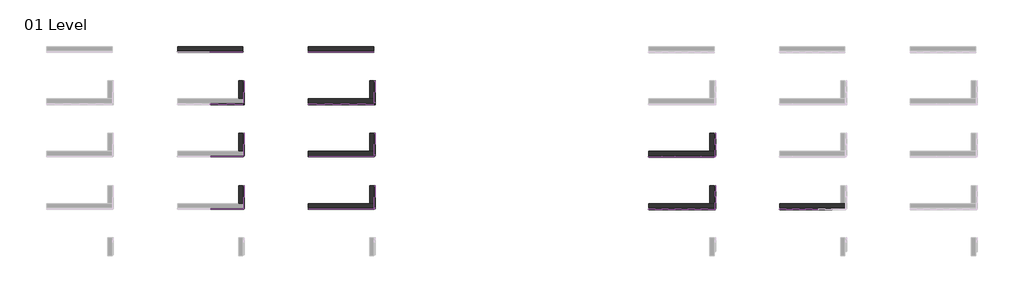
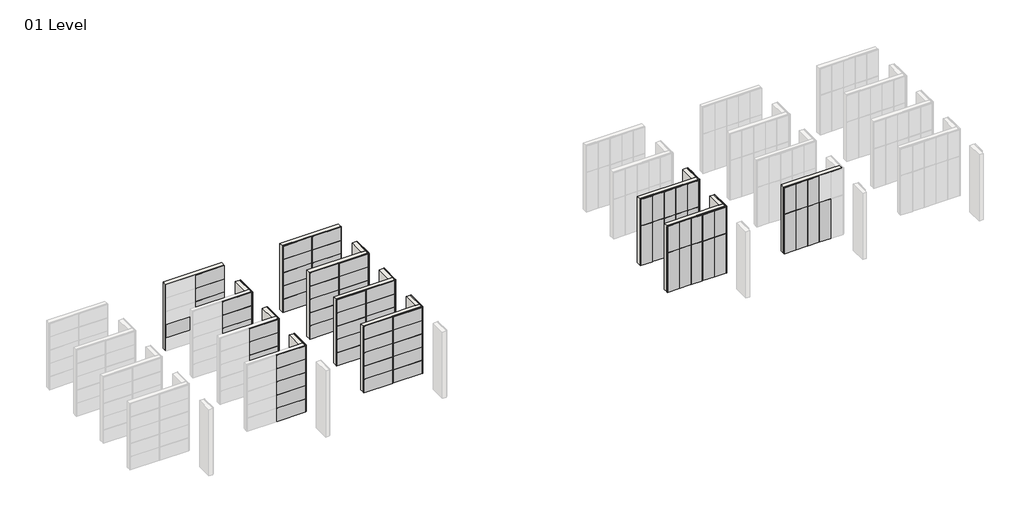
# One storey, part 8 of 9: 126 plates, 16 walls.
"""IFC4 building model written with IfcOpenShell, lengths in millimetres."""

from ifc_helpers import new_model, si_unit, origin, origin_with_axes, place, context, project, spatial, polyline, outline, extrude, faceted_brep, transform, mapped, element, save
from components import plate_0904af44, plate_e7c976e0, plate_a37fb7f1, plate_42f9c4d8, plate_c9eeb902, plate_ad4ab454, plate_c2ecfe3f, plate_62c4d9ae, plate_3ee6bba1, plate_4ea77f01, plate_acce0838, plate_e7e33969, plate_aa8d7293, plate_5b3d9199, plate_214ba543, plate_652c8ec9, plate_bde4079e, plate_9d35d37b, plate_bb0860f9, plate_58070d4d, plate_9cd253ac, plate_fa0548bc, plate_48d4b337, plate_5f2f2af7, plate_34d96444, plate_4d20720e, plate_6a977542, plate_9e6a310b

model = new_model("IFC4")

# Units and contexts
model_context = context("Model", 3, world=origin())
ifc_project = project(units=[si_unit("LENGTHUNIT", "METRE", prefix="MILLI")], contexts=[model_context])

# Site, building, storey
site = spatial("IfcSite", under=ifc_project)
building = spatial("IfcBuilding", under=site)
storey = spatial("IfcBuildingStorey", under=building, Name="01 Level", Elevation=0.0)

# Plates
placement = place(None, origin())
plate_shape = plate_0904af44(model_context)
element("IfcPlate", 1, ObjectType="Trimo_Qbiss Screen_Normal Panel-HORIZONTAL : HR - FB", at=placement, inside=storey, context=model_context, shape_type="MappedRepresentation", body=[
    mapped(plate_shape, transform((-14952.2237135, 12916.7286683, 0.0), x_axis=(-1.0, 0.0, 0.0), y_axis=(0.0, -1.0, 0.0), z_axis=(0.0, 0.0, 1.0))),
])
element("IfcPlate", 2, ObjectType="Trimo_Qbiss Screen_Normal Panel-HORIZONTAL : HR - FB", at=placement, inside=storey, context=model_context, shape_type="MappedRepresentation", body=[
    mapped(plate_shape, transform((-14952.2237135, 12916.7286683, 4800.0), x_axis=(-1.0, 0.0, 0.0), y_axis=(0.0, -1.0, 0.0), z_axis=(0.0, 0.0, 1.0))),
])
element("IfcPlate", 3, ObjectType="Trimo_Qbiss Screen_Normal Panel-HORIZONTAL : HR - FB", at=placement, inside=storey, context=model_context, shape_type="MappedRepresentation", body=[
    mapped(plate_shape, transform((-14952.2237135, 12916.7286683, 2400.0), x_axis=(-1.0, 0.0, 0.0), y_axis=(0.0, -1.0, 0.0), z_axis=(0.0, 0.0, 1.0))),
])
element("IfcPlate", 4, ObjectType="Trimo_Qbiss Screen_Normal Panel-HORIZONTAL : HR - FB", at=placement, inside=storey, context=model_context, shape_type="MappedRepresentation", body=[
    mapped(plate_shape, transform((-14952.2237135, 12916.7286683, 3600.0), x_axis=(-1.0, 0.0, 0.0), y_axis=(0.0, -1.0, 0.0), z_axis=(0.0, 0.0, 1.0))),
])
element("IfcPlate", 5, ObjectType="Trimo_Qbiss Screen_Normal Panel-HORIZONTAL : HR - FB", at=placement, inside=storey, context=model_context, shape_type="MappedRepresentation", body=[
    mapped(plate_shape, transform((-14952.2237135, 12916.7286683, 1200.0), x_axis=(-1.0, 0.0, 0.0), y_axis=(0.0, -1.0, 0.0), z_axis=(0.0, 0.0, 1.0))),
])
element("IfcPlate", 6, ObjectType="Trimo_Qbiss Screen_Normal Panel-HORIZONTAL : HR - FB", at=placement, inside=storey, context=model_context, shape_type="MappedRepresentation", body=[
    mapped(plate_shape, transform((-17452.2237135, 12916.7286683, 1200.0), x_axis=(-1.0, 0.0, 0.0), y_axis=(0.0, -1.0, 0.0), z_axis=(0.0, 0.0, 1.0))),
])
plate_2_shape = plate_e7c976e0(model_context)
element("IfcPlate", 7, ObjectType="Trimo_Qbiss Screen_Normal Panel-HORIZONTAL : HR - FB", at=placement, inside=storey, context=model_context, shape_type="MappedRepresentation", body=[
    mapped(plate_2_shape, transform((-14952.2237135, 8916.7286683, 0.0), x_axis=(-1.0, 0.0, 0.0), y_axis=(0.0, -1.0, 0.0), z_axis=(0.0, 0.0, 1.0))),
])
element("IfcPlate", 8, ObjectType="Trimo_Qbiss Screen_Normal Panel-HORIZONTAL : HR - FB", at=placement, inside=storey, context=model_context, shape_type="MappedRepresentation", body=[
    mapped(plate_2_shape, transform((-14952.2237135, 8916.7286683, 4800.0), x_axis=(-1.0, 0.0, 0.0), y_axis=(0.0, -1.0, 0.0), z_axis=(0.0, 0.0, 1.0))),
])
element("IfcPlate", 9, ObjectType="Trimo_Qbiss Screen_Normal Panel-HORIZONTAL : HR - FB", at=placement, inside=storey, context=model_context, shape_type="MappedRepresentation", body=[
    mapped(plate_2_shape, transform((-14952.2237135, 8916.7286683, 2400.0), x_axis=(-1.0, 0.0, 0.0), y_axis=(0.0, -1.0, 0.0), z_axis=(0.0, 0.0, 1.0))),
])
element("IfcPlate", 10, ObjectType="Trimo_Qbiss Screen_Normal Panel-HORIZONTAL : HR - FB", at=placement, inside=storey, context=model_context, shape_type="MappedRepresentation", body=[
    mapped(plate_2_shape, transform((-14952.2237135, 8916.7286683, 3600.0), x_axis=(-1.0, 0.0, 0.0), y_axis=(0.0, -1.0, 0.0), z_axis=(0.0, 0.0, 1.0))),
])
element("IfcPlate", 11, ObjectType="Trimo_Qbiss Screen_Normal Panel-HORIZONTAL : HR - FB", at=placement, inside=storey, context=model_context, shape_type="MappedRepresentation", body=[
    mapped(plate_2_shape, transform((-14952.2237135, 8916.7286683, 1200.0), x_axis=(-1.0, 0.0, 0.0), y_axis=(0.0, -1.0, 0.0), z_axis=(0.0, 0.0, 1.0))),
])
plate_3_shape = plate_a37fb7f1(model_context)
element("IfcPlate", 12, ObjectType="Trimo_Qbiss Screen_Normal Panel-HORIZONTAL : HR - FB", at=placement, inside=storey, context=model_context, shape_type="MappedRepresentation", body=[
    mapped(plate_3_shape, transform((-14952.2237135, 4916.7286683, 0.0), x_axis=(-1.0, 0.0, 0.0), y_axis=(0.0, -1.0, 0.0), z_axis=(0.0, 0.0, 1.0))),
])
element("IfcPlate", 13, ObjectType="Trimo_Qbiss Screen_Normal Panel-HORIZONTAL : HR - FB", at=placement, inside=storey, context=model_context, shape_type="MappedRepresentation", body=[
    mapped(plate_3_shape, transform((-14952.2237135, 4916.7286683, 4800.0), x_axis=(-1.0, 0.0, 0.0), y_axis=(0.0, -1.0, 0.0), z_axis=(0.0, 0.0, 1.0))),
])
element("IfcPlate", 14, ObjectType="Trimo_Qbiss Screen_Normal Panel-HORIZONTAL : HR - FB", at=placement, inside=storey, context=model_context, shape_type="MappedRepresentation", body=[
    mapped(plate_3_shape, transform((-14952.2237135, 4916.7286683, 2400.0), x_axis=(-1.0, 0.0, 0.0), y_axis=(0.0, -1.0, 0.0), z_axis=(0.0, 0.0, 1.0))),
])
element("IfcPlate", 15, ObjectType="Trimo_Qbiss Screen_Normal Panel-HORIZONTAL : HR - FB", at=placement, inside=storey, context=model_context, shape_type="MappedRepresentation", body=[
    mapped(plate_3_shape, transform((-14952.2237135, 4916.7286683, 3600.0), x_axis=(-1.0, 0.0, 0.0), y_axis=(0.0, -1.0, 0.0), z_axis=(0.0, 0.0, 1.0))),
])
element("IfcPlate", 16, ObjectType="Trimo_Qbiss Screen_Normal Panel-HORIZONTAL : HR - FB", at=placement, inside=storey, context=model_context, shape_type="MappedRepresentation", body=[
    mapped(plate_3_shape, transform((-14952.2237135, 4916.7286683, 1200.0), x_axis=(-1.0, 0.0, 0.0), y_axis=(0.0, -1.0, 0.0), z_axis=(0.0, 0.0, 1.0))),
])
plate_4_shape = plate_42f9c4d8(model_context)
element("IfcPlate", 17, ObjectType="Trimo_Qbiss Screen_Normal Panel-HORIZONTAL : HR - FB", at=placement, inside=storey, context=model_context, shape_type="MappedRepresentation", body=[
    mapped(plate_4_shape, transform((-14952.2237135, 916.7286683, 0.0), x_axis=(-1.0, 0.0, 0.0), y_axis=(0.0, -1.0, 0.0), z_axis=(0.0, 0.0, 1.0))),
])
element("IfcPlate", 18, ObjectType="Trimo_Qbiss Screen_Normal Panel-HORIZONTAL : HR - FB", at=placement, inside=storey, context=model_context, shape_type="MappedRepresentation", body=[
    mapped(plate_4_shape, transform((-14952.2237135, 916.7286683, 4800.0), x_axis=(-1.0, 0.0, 0.0), y_axis=(0.0, -1.0, 0.0), z_axis=(0.0, 0.0, 1.0))),
])
element("IfcPlate", 19, ObjectType="Trimo_Qbiss Screen_Normal Panel-HORIZONTAL : HR - FB", at=placement, inside=storey, context=model_context, shape_type="MappedRepresentation", body=[
    mapped(plate_4_shape, transform((-14952.2237135, 916.7286683, 2400.0), x_axis=(-1.0, 0.0, 0.0), y_axis=(0.0, -1.0, 0.0), z_axis=(0.0, 0.0, 1.0))),
])
element("IfcPlate", 20, ObjectType="Trimo_Qbiss Screen_Normal Panel-HORIZONTAL : HR - FB", at=placement, inside=storey, context=model_context, shape_type="MappedRepresentation", body=[
    mapped(plate_4_shape, transform((-14952.2237135, 916.7286683, 3600.0), x_axis=(-1.0, 0.0, 0.0), y_axis=(0.0, -1.0, 0.0), z_axis=(0.0, 0.0, 1.0))),
])
element("IfcPlate", 21, ObjectType="Trimo_Qbiss Screen_Normal Panel-HORIZONTAL : HR - FB", at=placement, inside=storey, context=model_context, shape_type="MappedRepresentation", body=[
    mapped(plate_4_shape, transform((-14952.2237135, 916.7286683, 1200.0), x_axis=(-1.0, 0.0, 0.0), y_axis=(0.0, -1.0, 0.0), z_axis=(0.0, 0.0, 1.0))),
])
plate_5_shape = plate_c9eeb902(model_context)
element("IfcPlate", 22, ObjectType="Trimo_Qbiss Screen_Normal Panel-HORIZONTAL : HR - FB", at=placement, inside=storey, context=model_context, shape_type="MappedRepresentation", body=[
    mapped(plate_5_shape, transform((-13702.2237135, 9766.7286683, 0.0), x_axis=(0.0, -1.0, 0.0), y_axis=(1.0, 0.0, 0.0), z_axis=(0.0, 0.0, 1.0))),
])
element("IfcPlate", 23, ObjectType="Trimo_Qbiss Screen_Normal Panel-HORIZONTAL : HR - FB", at=placement, inside=storey, context=model_context, shape_type="MappedRepresentation", body=[
    mapped(plate_5_shape, transform((-13702.2237135, 9766.7286683, 4800.0), x_axis=(0.0, -1.0, 0.0), y_axis=(1.0, 0.0, 0.0), z_axis=(0.0, 0.0, 1.0))),
])
element("IfcPlate", 24, ObjectType="Trimo_Qbiss Screen_Normal Panel-HORIZONTAL : HR - FB", at=placement, inside=storey, context=model_context, shape_type="MappedRepresentation", body=[
    mapped(plate_5_shape, transform((-13702.2237135, 9766.7286683, 3600.0), x_axis=(0.0, -1.0, 0.0), y_axis=(1.0, 0.0, 0.0), z_axis=(0.0, 0.0, 1.0))),
])
element("IfcPlate", 25, ObjectType="Trimo_Qbiss Screen_Normal Panel-HORIZONTAL : HR - FB", at=placement, inside=storey, context=model_context, shape_type="MappedRepresentation", body=[
    mapped(plate_5_shape, transform((-13702.2237135, 9766.7286683, 2400.0), x_axis=(0.0, -1.0, 0.0), y_axis=(1.0, 0.0, 0.0), z_axis=(0.0, 0.0, 1.0))),
])
element("IfcPlate", 26, ObjectType="Trimo_Qbiss Screen_Normal Panel-HORIZONTAL : HR - FB", at=placement, inside=storey, context=model_context, shape_type="MappedRepresentation", body=[
    mapped(plate_5_shape, transform((-13702.2237135, 9766.7286683, 1200.0), x_axis=(0.0, -1.0, 0.0), y_axis=(1.0, 0.0, 0.0), z_axis=(0.0, 0.0, 1.0))),
])
plate_6_shape = plate_ad4ab454(model_context)
element("IfcPlate", 27, ObjectType="Trimo_Qbiss Screen_Normal Panel-HORIZONTAL : HR - FB", at=placement, inside=storey, context=model_context, shape_type="MappedRepresentation", body=[
    mapped(plate_6_shape, transform((-13702.2237135, 5766.7286683, 0.0), x_axis=(0.0, -1.0, 0.0), y_axis=(1.0, 0.0, 0.0), z_axis=(0.0, 0.0, 1.0))),
])
element("IfcPlate", 28, ObjectType="Trimo_Qbiss Screen_Normal Panel-HORIZONTAL : HR - FB", at=placement, inside=storey, context=model_context, shape_type="MappedRepresentation", body=[
    mapped(plate_6_shape, transform((-13702.2237135, 5766.7286683, 4800.0), x_axis=(0.0, -1.0, 0.0), y_axis=(1.0, 0.0, 0.0), z_axis=(0.0, 0.0, 1.0))),
])
element("IfcPlate", 29, ObjectType="Trimo_Qbiss Screen_Normal Panel-HORIZONTAL : HR - FB", at=placement, inside=storey, context=model_context, shape_type="MappedRepresentation", body=[
    mapped(plate_6_shape, transform((-13702.2237135, 5766.7286683, 2400.0), x_axis=(0.0, -1.0, 0.0), y_axis=(1.0, 0.0, 0.0), z_axis=(0.0, 0.0, 1.0))),
])
element("IfcPlate", 30, ObjectType="Trimo_Qbiss Screen_Normal Panel-HORIZONTAL : HR - FB", at=placement, inside=storey, context=model_context, shape_type="MappedRepresentation", body=[
    mapped(plate_6_shape, transform((-13702.2237135, 5766.7286683, 3600.0), x_axis=(0.0, -1.0, 0.0), y_axis=(1.0, 0.0, 0.0), z_axis=(0.0, 0.0, 1.0))),
])
element("IfcPlate", 31, ObjectType="Trimo_Qbiss Screen_Normal Panel-HORIZONTAL : HR - FB", at=placement, inside=storey, context=model_context, shape_type="MappedRepresentation", body=[
    mapped(plate_6_shape, transform((-13702.2237135, 5766.7286683, 1200.0), x_axis=(0.0, -1.0, 0.0), y_axis=(1.0, 0.0, 0.0), z_axis=(0.0, 0.0, 1.0))),
])
plate_7_shape = plate_c2ecfe3f(model_context)
element("IfcPlate", 32, ObjectType="Trimo_Qbiss Screen_Normal Panel-HORIZONTAL : HR - FB", at=placement, inside=storey, context=model_context, shape_type="MappedRepresentation", body=[
    mapped(plate_7_shape, transform((-13702.2237135, 1766.7286683, 0.0), x_axis=(0.0, -1.0, 0.0), y_axis=(1.0, 0.0, 0.0), z_axis=(0.0, 0.0, 1.0))),
])
element("IfcPlate", 33, ObjectType="Trimo_Qbiss Screen_Normal Panel-HORIZONTAL : HR - FB", at=placement, inside=storey, context=model_context, shape_type="MappedRepresentation", body=[
    mapped(plate_7_shape, transform((-13702.2237135, 1766.7286683, 4800.0), x_axis=(0.0, -1.0, 0.0), y_axis=(1.0, 0.0, 0.0), z_axis=(0.0, 0.0, 1.0))),
])
element("IfcPlate", 34, ObjectType="Trimo_Qbiss Screen_Normal Panel-HORIZONTAL : HR - FB", at=placement, inside=storey, context=model_context, shape_type="MappedRepresentation", body=[
    mapped(plate_7_shape, transform((-13702.2237135, 1766.7286683, 2400.0), x_axis=(0.0, -1.0, 0.0), y_axis=(1.0, 0.0, 0.0), z_axis=(0.0, 0.0, 1.0))),
])
element("IfcPlate", 35, ObjectType="Trimo_Qbiss Screen_Normal Panel-HORIZONTAL : HR - FB", at=placement, inside=storey, context=model_context, shape_type="MappedRepresentation", body=[
    mapped(plate_7_shape, transform((-13702.2237135, 1766.7286683, 3600.0), x_axis=(0.0, -1.0, 0.0), y_axis=(1.0, 0.0, 0.0), z_axis=(0.0, 0.0, 1.0))),
])
element("IfcPlate", 36, ObjectType="Trimo_Qbiss Screen_Normal Panel-HORIZONTAL : HR - FB", at=placement, inside=storey, context=model_context, shape_type="MappedRepresentation", body=[
    mapped(plate_7_shape, transform((-13702.2237135, 1766.7286683, 1200.0), x_axis=(0.0, -1.0, 0.0), y_axis=(1.0, 0.0, 0.0), z_axis=(0.0, 0.0, 1.0))),
])
plate_8_shape = plate_62c4d9ae(model_context)
element("IfcPlate", 37, ObjectType="Trimo_Qbiss Screen_Normal Panel-HORIZONTAL : HR - FB-F", at=placement, inside=storey, context=model_context, shape_type="MappedRepresentation", body=[
    mapped(plate_8_shape, transform((-4952.2237135, 12916.7286683, 0.0), x_axis=(-1.0, 0.0, 0.0), y_axis=(0.0, -1.0, 0.0), z_axis=(0.0, 0.0, 1.0))),
])
element("IfcPlate", 38, ObjectType="Trimo_Qbiss Screen_Normal Panel-HORIZONTAL : HR - FB-F", at=placement, inside=storey, context=model_context, shape_type="MappedRepresentation", body=[
    mapped(plate_8_shape, transform((-7452.2237135, 12916.7286683, 0.0), x_axis=(-1.0, 0.0, 0.0), y_axis=(0.0, -1.0, 0.0), z_axis=(0.0, 0.0, 1.0))),
])
element("IfcPlate", 39, ObjectType="Trimo_Qbiss Screen_Normal Panel-HORIZONTAL : HR - FB-F", at=placement, inside=storey, context=model_context, shape_type="MappedRepresentation", body=[
    mapped(plate_8_shape, transform((-4952.2237135, 12916.7286683, 4800.0), x_axis=(-1.0, 0.0, 0.0), y_axis=(0.0, -1.0, 0.0), z_axis=(0.0, 0.0, 1.0))),
])
element("IfcPlate", 40, ObjectType="Trimo_Qbiss Screen_Normal Panel-HORIZONTAL : HR - FB-F", at=placement, inside=storey, context=model_context, shape_type="MappedRepresentation", body=[
    mapped(plate_8_shape, transform((-7452.2237135, 12916.7286683, 4800.0), x_axis=(-1.0, 0.0, 0.0), y_axis=(0.0, -1.0, 0.0), z_axis=(0.0, 0.0, 1.0))),
])
element("IfcPlate", 41, ObjectType="Trimo_Qbiss Screen_Normal Panel-HORIZONTAL : HR - FB-F", at=placement, inside=storey, context=model_context, shape_type="MappedRepresentation", body=[
    mapped(plate_8_shape, transform((-4952.2237135, 12916.7286683, 2400.0), x_axis=(-1.0, 0.0, 0.0), y_axis=(0.0, -1.0, 0.0), z_axis=(0.0, 0.0, 1.0))),
])
element("IfcPlate", 42, ObjectType="Trimo_Qbiss Screen_Normal Panel-HORIZONTAL : HR - FB-F", at=placement, inside=storey, context=model_context, shape_type="MappedRepresentation", body=[
    mapped(plate_8_shape, transform((-7452.2237135, 12916.7286683, 2400.0), x_axis=(-1.0, 0.0, 0.0), y_axis=(0.0, -1.0, 0.0), z_axis=(0.0, 0.0, 1.0))),
])
element("IfcPlate", 43, ObjectType="Trimo_Qbiss Screen_Normal Panel-HORIZONTAL : HR - FB-F", at=placement, inside=storey, context=model_context, shape_type="MappedRepresentation", body=[
    mapped(plate_8_shape, transform((-4952.2237135, 12916.7286683, 3600.0), x_axis=(-1.0, 0.0, 0.0), y_axis=(0.0, -1.0, 0.0), z_axis=(0.0, 0.0, 1.0))),
])
element("IfcPlate", 44, ObjectType="Trimo_Qbiss Screen_Normal Panel-HORIZONTAL : HR - FB-F", at=placement, inside=storey, context=model_context, shape_type="MappedRepresentation", body=[
    mapped(plate_8_shape, transform((-7452.2237135, 12916.7286683, 3600.0), x_axis=(-1.0, 0.0, 0.0), y_axis=(0.0, -1.0, 0.0), z_axis=(0.0, 0.0, 1.0))),
])
element("IfcPlate", 45, ObjectType="Trimo_Qbiss Screen_Normal Panel-HORIZONTAL : HR - FB-F", at=placement, inside=storey, context=model_context, shape_type="MappedRepresentation", body=[
    mapped(plate_8_shape, transform((-4952.2237135, 12916.7286683, 1200.0), x_axis=(-1.0, 0.0, 0.0), y_axis=(0.0, -1.0, 0.0), z_axis=(0.0, 0.0, 1.0))),
])
element("IfcPlate", 46, ObjectType="Trimo_Qbiss Screen_Normal Panel-HORIZONTAL : HR - FB-F", at=placement, inside=storey, context=model_context, shape_type="MappedRepresentation", body=[
    mapped(plate_8_shape, transform((-7452.2237135, 12916.7286683, 1200.0), x_axis=(-1.0, 0.0, 0.0), y_axis=(0.0, -1.0, 0.0), z_axis=(0.0, 0.0, 1.0))),
])
element("IfcPlate", 47, ObjectType="Trimo_Qbiss Screen_Normal Panel-HORIZONTAL : HR - FB-F", at=placement, inside=storey, context=model_context, shape_type="MappedRepresentation", body=[
    mapped(plate_8_shape, transform((-7452.2237135, 8916.7286683, 0.0), x_axis=(-1.0, 0.0, 0.0), y_axis=(0.0, -1.0, 0.0), z_axis=(0.0, 0.0, 1.0))),
])
element("IfcPlate", 48, ObjectType="Trimo_Qbiss Screen_Normal Panel-HORIZONTAL : HR - FB-F", at=placement, inside=storey, context=model_context, shape_type="MappedRepresentation", body=[
    mapped(plate_8_shape, transform((-7452.2237135, 8916.7286683, 4800.0), x_axis=(-1.0, 0.0, 0.0), y_axis=(0.0, -1.0, 0.0), z_axis=(0.0, 0.0, 1.0))),
])
element("IfcPlate", 49, ObjectType="Trimo_Qbiss Screen_Normal Panel-HORIZONTAL : HR - FB-F", at=placement, inside=storey, context=model_context, shape_type="MappedRepresentation", body=[
    mapped(plate_8_shape, transform((-7452.2237135, 8916.7286683, 2400.0), x_axis=(-1.0, 0.0, 0.0), y_axis=(0.0, -1.0, 0.0), z_axis=(0.0, 0.0, 1.0))),
])
element("IfcPlate", 50, ObjectType="Trimo_Qbiss Screen_Normal Panel-HORIZONTAL : HR - FB-F", at=placement, inside=storey, context=model_context, shape_type="MappedRepresentation", body=[
    mapped(plate_8_shape, transform((-7452.2237135, 8916.7286683, 3600.0), x_axis=(-1.0, 0.0, 0.0), y_axis=(0.0, -1.0, 0.0), z_axis=(0.0, 0.0, 1.0))),
])
element("IfcPlate", 51, ObjectType="Trimo_Qbiss Screen_Normal Panel-HORIZONTAL : HR - FB-F", at=placement, inside=storey, context=model_context, shape_type="MappedRepresentation", body=[
    mapped(plate_8_shape, transform((-7452.2237135, 8916.7286683, 1200.0), x_axis=(-1.0, 0.0, 0.0), y_axis=(0.0, -1.0, 0.0), z_axis=(0.0, 0.0, 1.0))),
])
element("IfcPlate", 52, ObjectType="Trimo_Qbiss Screen_Normal Panel-HORIZONTAL : HR - FB-F", at=placement, inside=storey, context=model_context, shape_type="MappedRepresentation", body=[
    mapped(plate_8_shape, transform((-7452.2237135, 4916.7286683, 0.0), x_axis=(-1.0, 0.0, 0.0), y_axis=(0.0, -1.0, 0.0), z_axis=(0.0, 0.0, 1.0))),
])
element("IfcPlate", 53, ObjectType="Trimo_Qbiss Screen_Normal Panel-HORIZONTAL : HR - FB-F", at=placement, inside=storey, context=model_context, shape_type="MappedRepresentation", body=[
    mapped(plate_8_shape, transform((-7452.2237135, 4916.7286683, 4800.0), x_axis=(-1.0, 0.0, 0.0), y_axis=(0.0, -1.0, 0.0), z_axis=(0.0, 0.0, 1.0))),
])
element("IfcPlate", 54, ObjectType="Trimo_Qbiss Screen_Normal Panel-HORIZONTAL : HR - FB-F", at=placement, inside=storey, context=model_context, shape_type="MappedRepresentation", body=[
    mapped(plate_8_shape, transform((-7452.2237135, 4916.7286683, 2400.0), x_axis=(-1.0, 0.0, 0.0), y_axis=(0.0, -1.0, 0.0), z_axis=(0.0, 0.0, 1.0))),
])
element("IfcPlate", 55, ObjectType="Trimo_Qbiss Screen_Normal Panel-HORIZONTAL : HR - FB-F", at=placement, inside=storey, context=model_context, shape_type="MappedRepresentation", body=[
    mapped(plate_8_shape, transform((-7452.2237135, 4916.7286683, 3600.0), x_axis=(-1.0, 0.0, 0.0), y_axis=(0.0, -1.0, 0.0), z_axis=(0.0, 0.0, 1.0))),
])
element("IfcPlate", 56, ObjectType="Trimo_Qbiss Screen_Normal Panel-HORIZONTAL : HR - FB-F", at=placement, inside=storey, context=model_context, shape_type="MappedRepresentation", body=[
    mapped(plate_8_shape, transform((-7452.2237135, 4916.7286683, 1200.0), x_axis=(-1.0, 0.0, 0.0), y_axis=(0.0, -1.0, 0.0), z_axis=(0.0, 0.0, 1.0))),
])
element("IfcPlate", 57, ObjectType="Trimo_Qbiss Screen_Normal Panel-HORIZONTAL : HR - FB-F", at=placement, inside=storey, context=model_context, shape_type="MappedRepresentation", body=[
    mapped(plate_8_shape, transform((-7452.2237135, 916.7286683, 0.0), x_axis=(-1.0, 0.0, 0.0), y_axis=(0.0, -1.0, 0.0), z_axis=(0.0, 0.0, 1.0))),
])
element("IfcPlate", 58, ObjectType="Trimo_Qbiss Screen_Normal Panel-HORIZONTAL : HR - FB-F", at=placement, inside=storey, context=model_context, shape_type="MappedRepresentation", body=[
    mapped(plate_8_shape, transform((-7452.2237135, 916.7286683, 4800.0), x_axis=(-1.0, 0.0, 0.0), y_axis=(0.0, -1.0, 0.0), z_axis=(0.0, 0.0, 1.0))),
])
element("IfcPlate", 59, ObjectType="Trimo_Qbiss Screen_Normal Panel-HORIZONTAL : HR - FB-F", at=placement, inside=storey, context=model_context, shape_type="MappedRepresentation", body=[
    mapped(plate_8_shape, transform((-7452.2237135, 916.7286683, 2400.0), x_axis=(-1.0, 0.0, 0.0), y_axis=(0.0, -1.0, 0.0), z_axis=(0.0, 0.0, 1.0))),
])
element("IfcPlate", 60, ObjectType="Trimo_Qbiss Screen_Normal Panel-HORIZONTAL : HR - FB-F", at=placement, inside=storey, context=model_context, shape_type="MappedRepresentation", body=[
    mapped(plate_8_shape, transform((-7452.2237135, 916.7286683, 3600.0), x_axis=(-1.0, 0.0, 0.0), y_axis=(0.0, -1.0, 0.0), z_axis=(0.0, 0.0, 1.0))),
])
element("IfcPlate", 61, ObjectType="Trimo_Qbiss Screen_Normal Panel-HORIZONTAL : HR - FB-F", at=placement, inside=storey, context=model_context, shape_type="MappedRepresentation", body=[
    mapped(plate_8_shape, transform((-7452.2237135, 916.7286683, 1200.0), x_axis=(-1.0, 0.0, 0.0), y_axis=(0.0, -1.0, 0.0), z_axis=(0.0, 0.0, 1.0))),
])
plate_9_shape = plate_3ee6bba1(model_context)
element("IfcPlate", 62, ObjectType="Trimo_Qbiss Screen_Normal Panel-HORIZONTAL : HR - FB-F", at=placement, inside=storey, context=model_context, shape_type="MappedRepresentation", body=[
    mapped(plate_9_shape, transform((-4952.2237135, 8916.7286683, 0.0), x_axis=(-1.0, 0.0, 0.0), y_axis=(0.0, -1.0, 0.0), z_axis=(0.0, 0.0, 1.0))),
])
element("IfcPlate", 63, ObjectType="Trimo_Qbiss Screen_Normal Panel-HORIZONTAL : HR - FB-F", at=placement, inside=storey, context=model_context, shape_type="MappedRepresentation", body=[
    mapped(plate_9_shape, transform((-4952.2237135, 8916.7286683, 4800.0), x_axis=(-1.0, 0.0, 0.0), y_axis=(0.0, -1.0, 0.0), z_axis=(0.0, 0.0, 1.0))),
])
element("IfcPlate", 64, ObjectType="Trimo_Qbiss Screen_Normal Panel-HORIZONTAL : HR - FB-F", at=placement, inside=storey, context=model_context, shape_type="MappedRepresentation", body=[
    mapped(plate_9_shape, transform((-4952.2237135, 8916.7286683, 2400.0), x_axis=(-1.0, 0.0, 0.0), y_axis=(0.0, -1.0, 0.0), z_axis=(0.0, 0.0, 1.0))),
])
element("IfcPlate", 65, ObjectType="Trimo_Qbiss Screen_Normal Panel-HORIZONTAL : HR - FB-F", at=placement, inside=storey, context=model_context, shape_type="MappedRepresentation", body=[
    mapped(plate_9_shape, transform((-4952.2237135, 8916.7286683, 3600.0), x_axis=(-1.0, 0.0, 0.0), y_axis=(0.0, -1.0, 0.0), z_axis=(0.0, 0.0, 1.0))),
])
element("IfcPlate", 66, ObjectType="Trimo_Qbiss Screen_Normal Panel-HORIZONTAL : HR - FB-F", at=placement, inside=storey, context=model_context, shape_type="MappedRepresentation", body=[
    mapped(plate_9_shape, transform((-4952.2237135, 8916.7286683, 1200.0), x_axis=(-1.0, 0.0, 0.0), y_axis=(0.0, -1.0, 0.0), z_axis=(0.0, 0.0, 1.0))),
])
plate_10_shape = plate_4ea77f01(model_context)
element("IfcPlate", 67, ObjectType="Trimo_Qbiss Screen_Normal Panel-HORIZONTAL : HR - FB-F", at=placement, inside=storey, context=model_context, shape_type="MappedRepresentation", body=[
    mapped(plate_10_shape, transform((-4952.2237135, 4916.7286683, 0.0), x_axis=(-1.0, 0.0, 0.0), y_axis=(0.0, -1.0, 0.0), z_axis=(0.0, 0.0, 1.0))),
])
element("IfcPlate", 68, ObjectType="Trimo_Qbiss Screen_Normal Panel-HORIZONTAL : HR - FB-F", at=placement, inside=storey, context=model_context, shape_type="MappedRepresentation", body=[
    mapped(plate_10_shape, transform((-4952.2237135, 4916.7286683, 4800.0), x_axis=(-1.0, 0.0, 0.0), y_axis=(0.0, -1.0, 0.0), z_axis=(0.0, 0.0, 1.0))),
])
element("IfcPlate", 69, ObjectType="Trimo_Qbiss Screen_Normal Panel-HORIZONTAL : HR - FB-F", at=placement, inside=storey, context=model_context, shape_type="MappedRepresentation", body=[
    mapped(plate_10_shape, transform((-4952.2237135, 4916.7286683, 2400.0), x_axis=(-1.0, 0.0, 0.0), y_axis=(0.0, -1.0, 0.0), z_axis=(0.0, 0.0, 1.0))),
])
element("IfcPlate", 70, ObjectType="Trimo_Qbiss Screen_Normal Panel-HORIZONTAL : HR - FB-F", at=placement, inside=storey, context=model_context, shape_type="MappedRepresentation", body=[
    mapped(plate_10_shape, transform((-4952.2237135, 4916.7286683, 3600.0), x_axis=(-1.0, 0.0, 0.0), y_axis=(0.0, -1.0, 0.0), z_axis=(0.0, 0.0, 1.0))),
])
element("IfcPlate", 71, ObjectType="Trimo_Qbiss Screen_Normal Panel-HORIZONTAL : HR - FB-F", at=placement, inside=storey, context=model_context, shape_type="MappedRepresentation", body=[
    mapped(plate_10_shape, transform((-4952.2237135, 4916.7286683, 1200.0), x_axis=(-1.0, 0.0, 0.0), y_axis=(0.0, -1.0, 0.0), z_axis=(0.0, 0.0, 1.0))),
])
plate_11_shape = plate_acce0838(model_context)
element("IfcPlate", 72, ObjectType="Trimo_Qbiss Screen_Normal Panel-HORIZONTAL : HR - FB-F", at=placement, inside=storey, context=model_context, shape_type="MappedRepresentation", body=[
    mapped(plate_11_shape, transform((-4952.2237135, 916.7286683, 0.0), x_axis=(-1.0, 0.0, 0.0), y_axis=(0.0, -1.0, 0.0), z_axis=(0.0, 0.0, 1.0))),
])
element("IfcPlate", 73, ObjectType="Trimo_Qbiss Screen_Normal Panel-HORIZONTAL : HR - FB-F", at=placement, inside=storey, context=model_context, shape_type="MappedRepresentation", body=[
    mapped(plate_11_shape, transform((-4952.2237135, 916.7286683, 4800.0), x_axis=(-1.0, 0.0, 0.0), y_axis=(0.0, -1.0, 0.0), z_axis=(0.0, 0.0, 1.0))),
])
element("IfcPlate", 74, ObjectType="Trimo_Qbiss Screen_Normal Panel-HORIZONTAL : HR - FB-F", at=placement, inside=storey, context=model_context, shape_type="MappedRepresentation", body=[
    mapped(plate_11_shape, transform((-4952.2237135, 916.7286683, 2400.0), x_axis=(-1.0, 0.0, 0.0), y_axis=(0.0, -1.0, 0.0), z_axis=(0.0, 0.0, 1.0))),
])
element("IfcPlate", 75, ObjectType="Trimo_Qbiss Screen_Normal Panel-HORIZONTAL : HR - FB-F", at=placement, inside=storey, context=model_context, shape_type="MappedRepresentation", body=[
    mapped(plate_11_shape, transform((-4952.2237135, 916.7286683, 3600.0), x_axis=(-1.0, 0.0, 0.0), y_axis=(0.0, -1.0, 0.0), z_axis=(0.0, 0.0, 1.0))),
])
element("IfcPlate", 76, ObjectType="Trimo_Qbiss Screen_Normal Panel-HORIZONTAL : HR - FB-F", at=placement, inside=storey, context=model_context, shape_type="MappedRepresentation", body=[
    mapped(plate_11_shape, transform((-4952.2237135, 916.7286683, 1200.0), x_axis=(-1.0, 0.0, 0.0), y_axis=(0.0, -1.0, 0.0), z_axis=(0.0, 0.0, 1.0))),
])
plate_12_shape = plate_e7e33969(model_context)
element("IfcPlate", 77, ObjectType="Trimo_Qbiss Screen_Normal Panel-HORIZONTAL : HR - FB-F", at=placement, inside=storey, context=model_context, shape_type="MappedRepresentation", body=[
    mapped(plate_12_shape, transform((-3702.2237135, 9766.7286683, 0.0), x_axis=(0.0, -1.0, 0.0), y_axis=(1.0, 0.0, 0.0), z_axis=(0.0, 0.0, 1.0))),
])
element("IfcPlate", 78, ObjectType="Trimo_Qbiss Screen_Normal Panel-HORIZONTAL : HR - FB-F", at=placement, inside=storey, context=model_context, shape_type="MappedRepresentation", body=[
    mapped(plate_12_shape, transform((-3702.2237135, 9766.7286683, 4800.0), x_axis=(0.0, -1.0, 0.0), y_axis=(1.0, 0.0, 0.0), z_axis=(0.0, 0.0, 1.0))),
])
element("IfcPlate", 79, ObjectType="Trimo_Qbiss Screen_Normal Panel-HORIZONTAL : HR - FB-F", at=placement, inside=storey, context=model_context, shape_type="MappedRepresentation", body=[
    mapped(plate_12_shape, transform((-3702.2237135, 9766.7286683, 3600.0), x_axis=(0.0, -1.0, 0.0), y_axis=(1.0, 0.0, 0.0), z_axis=(0.0, 0.0, 1.0))),
])
element("IfcPlate", 80, ObjectType="Trimo_Qbiss Screen_Normal Panel-HORIZONTAL : HR - FB-F", at=placement, inside=storey, context=model_context, shape_type="MappedRepresentation", body=[
    mapped(plate_12_shape, transform((-3702.2237135, 9766.7286683, 2400.0), x_axis=(0.0, -1.0, 0.0), y_axis=(1.0, 0.0, 0.0), z_axis=(0.0, 0.0, 1.0))),
])
element("IfcPlate", 81, ObjectType="Trimo_Qbiss Screen_Normal Panel-HORIZONTAL : HR - FB-F", at=placement, inside=storey, context=model_context, shape_type="MappedRepresentation", body=[
    mapped(plate_12_shape, transform((-3702.2237135, 9766.7286683, 1200.0), x_axis=(0.0, -1.0, 0.0), y_axis=(1.0, 0.0, 0.0), z_axis=(0.0, 0.0, 1.0))),
])
plate_13_shape = plate_aa8d7293(model_context)
element("IfcPlate", 82, ObjectType="Trimo_Qbiss Screen_Normal Panel-HORIZONTAL : HR - FB-F", at=placement, inside=storey, context=model_context, shape_type="MappedRepresentation", body=[
    mapped(plate_13_shape, transform((-3702.2237135, 5766.7286683, 0.0), x_axis=(0.0, -1.0, 0.0), y_axis=(1.0, 0.0, 0.0), z_axis=(0.0, 0.0, 1.0))),
])
element("IfcPlate", 83, ObjectType="Trimo_Qbiss Screen_Normal Panel-HORIZONTAL : HR - FB-F", at=placement, inside=storey, context=model_context, shape_type="MappedRepresentation", body=[
    mapped(plate_13_shape, transform((-3702.2237135, 5766.7286683, 4800.0), x_axis=(0.0, -1.0, 0.0), y_axis=(1.0, 0.0, 0.0), z_axis=(0.0, 0.0, 1.0))),
])
element("IfcPlate", 84, ObjectType="Trimo_Qbiss Screen_Normal Panel-HORIZONTAL : HR - FB-F", at=placement, inside=storey, context=model_context, shape_type="MappedRepresentation", body=[
    mapped(plate_13_shape, transform((-3702.2237135, 5766.7286683, 2400.0), x_axis=(0.0, -1.0, 0.0), y_axis=(1.0, 0.0, 0.0), z_axis=(0.0, 0.0, 1.0))),
])
element("IfcPlate", 85, ObjectType="Trimo_Qbiss Screen_Normal Panel-HORIZONTAL : HR - FB-F", at=placement, inside=storey, context=model_context, shape_type="MappedRepresentation", body=[
    mapped(plate_13_shape, transform((-3702.2237135, 5766.7286683, 3600.0), x_axis=(0.0, -1.0, 0.0), y_axis=(1.0, 0.0, 0.0), z_axis=(0.0, 0.0, 1.0))),
])
element("IfcPlate", 86, ObjectType="Trimo_Qbiss Screen_Normal Panel-HORIZONTAL : HR - FB-F", at=placement, inside=storey, context=model_context, shape_type="MappedRepresentation", body=[
    mapped(plate_13_shape, transform((-3702.2237135, 5766.7286683, 1200.0), x_axis=(0.0, -1.0, 0.0), y_axis=(1.0, 0.0, 0.0), z_axis=(0.0, 0.0, 1.0))),
])
plate_14_shape = plate_5b3d9199(model_context)
element("IfcPlate", 87, ObjectType="Trimo_Qbiss Screen_Normal Panel-HORIZONTAL : HR - FB-F", at=placement, inside=storey, context=model_context, shape_type="MappedRepresentation", body=[
    mapped(plate_14_shape, transform((-3702.2237135, 1766.7286683, 0.0), x_axis=(0.0, -1.0, 0.0), y_axis=(1.0, 0.0, 0.0), z_axis=(0.0, 0.0, 1.0))),
])
element("IfcPlate", 88, ObjectType="Trimo_Qbiss Screen_Normal Panel-HORIZONTAL : HR - FB-F", at=placement, inside=storey, context=model_context, shape_type="MappedRepresentation", body=[
    mapped(plate_14_shape, transform((-3702.2237135, 1766.7286683, 4800.0), x_axis=(0.0, -1.0, 0.0), y_axis=(1.0, 0.0, 0.0), z_axis=(0.0, 0.0, 1.0))),
])
element("IfcPlate", 89, ObjectType="Trimo_Qbiss Screen_Normal Panel-HORIZONTAL : HR - FB-F", at=placement, inside=storey, context=model_context, shape_type="MappedRepresentation", body=[
    mapped(plate_14_shape, transform((-3702.2237135, 1766.7286683, 2400.0), x_axis=(0.0, -1.0, 0.0), y_axis=(1.0, 0.0, 0.0), z_axis=(0.0, 0.0, 1.0))),
])
element("IfcPlate", 90, ObjectType="Trimo_Qbiss Screen_Normal Panel-HORIZONTAL : HR - FB-F", at=placement, inside=storey, context=model_context, shape_type="MappedRepresentation", body=[
    mapped(plate_14_shape, transform((-3702.2237135, 1766.7286683, 3600.0), x_axis=(0.0, -1.0, 0.0), y_axis=(1.0, 0.0, 0.0), z_axis=(0.0, 0.0, 1.0))),
])
element("IfcPlate", 91, ObjectType="Trimo_Qbiss Screen_Normal Panel-HORIZONTAL : HR - FB-F", at=placement, inside=storey, context=model_context, shape_type="MappedRepresentation", body=[
    mapped(plate_14_shape, transform((-3702.2237135, 1766.7286683, 1200.0), x_axis=(0.0, -1.0, 0.0), y_axis=(1.0, 0.0, 0.0), z_axis=(0.0, 0.0, 1.0))),
])
plate_15_shape = plate_214ba543(model_context)
element("IfcPlate", 92, ObjectType="Trimo_Qbiss Screen_Normal Panel-VERTICAL : HR - B", at=placement, inside=storey, context=model_context, shape_type="MappedRepresentation", body=[
    mapped(plate_15_shape, transform((19797.7762865, 4916.7286683, 0.0), x_axis=(-1.0, 0.0, 0.0), y_axis=(0.0, -1.0, 0.0), z_axis=(0.0, 0.0, 1.0))),
])
element("IfcPlate", 93, ObjectType="Trimo_Qbiss Screen_Normal Panel-VERTICAL : HR - B", at=placement, inside=storey, context=model_context, shape_type="MappedRepresentation", body=[
    mapped(plate_15_shape, transform((19797.7762865, 916.7286683, 0.0), x_axis=(-1.0, 0.0, 0.0), y_axis=(0.0, -1.0, 0.0), z_axis=(0.0, 0.0, 1.0))),
])
element("IfcPlate", 94, ObjectType="Trimo_Qbiss Screen_Normal Panel-VERTICAL : HR - B", at=placement, inside=storey, context=model_context, shape_type="MappedRepresentation", body=[
    mapped(plate_15_shape, transform((17797.7762865, 4916.7286683, 0.0), x_axis=(-1.0, 0.0, 0.0), y_axis=(0.0, -1.0, 0.0), z_axis=(0.0, 0.0, 1.0))),
])
element("IfcPlate", 95, ObjectType="Trimo_Qbiss Screen_Normal Panel-VERTICAL : HR - B", at=placement, inside=storey, context=model_context, shape_type="MappedRepresentation", body=[
    mapped(plate_15_shape, transform((18797.7762865, 4916.7286683, 0.0), x_axis=(-1.0, 0.0, 0.0), y_axis=(0.0, -1.0, 0.0), z_axis=(0.0, 0.0, 1.0))),
])
element("IfcPlate", 96, ObjectType="Trimo_Qbiss Screen_Normal Panel-VERTICAL : HR - B", at=placement, inside=storey, context=model_context, shape_type="MappedRepresentation", body=[
    mapped(plate_15_shape, transform((20797.7762865, 4916.7286683, 0.0), x_axis=(-1.0, 0.0, 0.0), y_axis=(0.0, -1.0, 0.0), z_axis=(0.0, 0.0, 1.0))),
])
element("IfcPlate", 97, ObjectType="Trimo_Qbiss Screen_Normal Panel-VERTICAL : HR - B", at=placement, inside=storey, context=model_context, shape_type="MappedRepresentation", body=[
    mapped(plate_15_shape, transform((17797.7762865, 916.7286683, 0.0), x_axis=(-1.0, 0.0, 0.0), y_axis=(0.0, -1.0, 0.0), z_axis=(0.0, 0.0, 1.0))),
])
element("IfcPlate", 98, ObjectType="Trimo_Qbiss Screen_Normal Panel-VERTICAL : HR - B", at=placement, inside=storey, context=model_context, shape_type="MappedRepresentation", body=[
    mapped(plate_15_shape, transform((18797.7762865, 916.7286683, 0.0), x_axis=(-1.0, 0.0, 0.0), y_axis=(0.0, -1.0, 0.0), z_axis=(0.0, 0.0, 1.0))),
])
element("IfcPlate", 99, ObjectType="Trimo_Qbiss Screen_Normal Panel-VERTICAL : HR - B", at=placement, inside=storey, context=model_context, shape_type="MappedRepresentation", body=[
    mapped(plate_15_shape, transform((20797.7762865, 916.7286683, 0.0), x_axis=(-1.0, 0.0, 0.0), y_axis=(0.0, -1.0, 0.0), z_axis=(0.0, 0.0, 1.0))),
])
plate_16_shape = plate_652c8ec9(model_context)
element("IfcPlate", 100, ObjectType="Trimo_Qbiss Screen_Normal Panel-VERTICAL : HR - B", at=placement, inside=storey, context=model_context, shape_type="MappedRepresentation", body=[
    mapped(plate_16_shape, transform((19797.7762865, 4916.7286683, 3600.0), x_axis=(-1.0, 0.0, 0.0), y_axis=(0.0, -1.0, 0.0), z_axis=(0.0, 0.0, 1.0))),
])
element("IfcPlate", 101, ObjectType="Trimo_Qbiss Screen_Normal Panel-VERTICAL : HR - B", at=placement, inside=storey, context=model_context, shape_type="MappedRepresentation", body=[
    mapped(plate_16_shape, transform((19797.7762865, 916.7286683, 3600.0), x_axis=(-1.0, 0.0, 0.0), y_axis=(0.0, -1.0, 0.0), z_axis=(0.0, 0.0, 1.0))),
])
element("IfcPlate", 102, ObjectType="Trimo_Qbiss Screen_Normal Panel-VERTICAL : HR - B", at=placement, inside=storey, context=model_context, shape_type="MappedRepresentation", body=[
    mapped(plate_16_shape, transform((17797.7762865, 4916.7286683, 3600.0), x_axis=(-1.0, 0.0, 0.0), y_axis=(0.0, -1.0, 0.0), z_axis=(0.0, 0.0, 1.0))),
])
element("IfcPlate", 103, ObjectType="Trimo_Qbiss Screen_Normal Panel-VERTICAL : HR - B", at=placement, inside=storey, context=model_context, shape_type="MappedRepresentation", body=[
    mapped(plate_16_shape, transform((18797.7762865, 4916.7286683, 3600.0), x_axis=(-1.0, 0.0, 0.0), y_axis=(0.0, -1.0, 0.0), z_axis=(0.0, 0.0, 1.0))),
])
element("IfcPlate", 104, ObjectType="Trimo_Qbiss Screen_Normal Panel-VERTICAL : HR - B", at=placement, inside=storey, context=model_context, shape_type="MappedRepresentation", body=[
    mapped(plate_16_shape, transform((20797.7762865, 4916.7286683, 3600.0), x_axis=(-1.0, 0.0, 0.0), y_axis=(0.0, -1.0, 0.0), z_axis=(0.0, 0.0, 1.0))),
])
element("IfcPlate", 105, ObjectType="Trimo_Qbiss Screen_Normal Panel-VERTICAL : HR - B", at=placement, inside=storey, context=model_context, shape_type="MappedRepresentation", body=[
    mapped(plate_16_shape, transform((17797.7762865, 916.7286683, 3600.0), x_axis=(-1.0, 0.0, 0.0), y_axis=(0.0, -1.0, 0.0), z_axis=(0.0, 0.0, 1.0))),
])
element("IfcPlate", 106, ObjectType="Trimo_Qbiss Screen_Normal Panel-VERTICAL : HR - B", at=placement, inside=storey, context=model_context, shape_type="MappedRepresentation", body=[
    mapped(plate_16_shape, transform((18797.7762865, 916.7286683, 3600.0), x_axis=(-1.0, 0.0, 0.0), y_axis=(0.0, -1.0, 0.0), z_axis=(0.0, 0.0, 1.0))),
])
element("IfcPlate", 107, ObjectType="Trimo_Qbiss Screen_Normal Panel-VERTICAL : HR - B", at=placement, inside=storey, context=model_context, shape_type="MappedRepresentation", body=[
    mapped(plate_16_shape, transform((20797.7762865, 916.7286683, 3600.0), x_axis=(-1.0, 0.0, 0.0), y_axis=(0.0, -1.0, 0.0), z_axis=(0.0, 0.0, 1.0))),
])
plate_17_shape = plate_bde4079e(model_context)
element("IfcPlate", 108, ObjectType="Trimo_Qbiss Screen_Normal Panel-VERTICAL : HR - B", at=placement, inside=storey, context=model_context, shape_type="MappedRepresentation", body=[
    mapped(plate_17_shape, transform((21797.7762865, 4916.7286683, 0.0), x_axis=(-1.0, 0.0, 0.0), y_axis=(0.0, -1.0, 0.0), z_axis=(0.0, 0.0, 1.0))),
])
plate_18_shape = plate_9d35d37b(model_context)
element("IfcPlate", 109, ObjectType="Trimo_Qbiss Screen_Normal Panel-VERTICAL : HR - B", at=placement, inside=storey, context=model_context, shape_type="MappedRepresentation", body=[
    mapped(plate_18_shape, transform((21797.7762865, 4916.7286683, 3600.0), x_axis=(-1.0, 0.0, 0.0), y_axis=(0.0, -1.0, 0.0), z_axis=(0.0, 0.0, 1.0))),
])
plate_19_shape = plate_bb0860f9(model_context)
element("IfcPlate", 110, ObjectType="Trimo_Qbiss Screen_Normal Panel-VERTICAL : HR - B", at=placement, inside=storey, context=model_context, shape_type="MappedRepresentation", body=[
    mapped(plate_19_shape, transform((21797.7762865, 916.7286683, 0.0), x_axis=(-1.0, 0.0, 0.0), y_axis=(0.0, -1.0, 0.0), z_axis=(0.0, 0.0, 1.0))),
])
plate_20_shape = plate_58070d4d(model_context)
element("IfcPlate", 111, ObjectType="Trimo_Qbiss Screen_Normal Panel-VERTICAL : HR - B", at=placement, inside=storey, context=model_context, shape_type="MappedRepresentation", body=[
    mapped(plate_20_shape, transform((21797.7762865, 916.7286683, 3600.0), x_axis=(-1.0, 0.0, 0.0), y_axis=(0.0, -1.0, 0.0), z_axis=(0.0, 0.0, 1.0))),
])
plate_21_shape = plate_9cd253ac(model_context)
element("IfcPlate", 112, ObjectType="Trimo_Qbiss Screen_Normal Panel-VERTICAL : HR - B", at=placement, inside=storey, context=model_context, shape_type="MappedRepresentation", body=[
    mapped(plate_21_shape, transform((22297.7762865, 6191.7286683, 0.0), x_axis=(0.0, -1.0, 0.0), y_axis=(1.0, 0.0, 0.0), z_axis=(0.0, 0.0, 1.0))),
])
element("IfcPlate", 113, ObjectType="Trimo_Qbiss Screen_Normal Panel-VERTICAL : HR - B", at=placement, inside=storey, context=model_context, shape_type="MappedRepresentation", body=[
    mapped(plate_21_shape, transform((22297.7762865, 2191.7286683, 0.0), x_axis=(0.0, -1.0, 0.0), y_axis=(1.0, 0.0, 0.0), z_axis=(0.0, 0.0, 1.0))),
])
plate_22_shape = plate_fa0548bc(model_context)
element("IfcPlate", 114, ObjectType="Trimo_Qbiss Screen_Normal Panel-VERTICAL : HR - B", at=placement, inside=storey, context=model_context, shape_type="MappedRepresentation", body=[
    mapped(plate_22_shape, transform((22297.7762865, 6191.7286683, 3600.0), x_axis=(0.0, -1.0, 0.0), y_axis=(1.0, 0.0, 0.0), z_axis=(0.0, 0.0, 1.0))),
])
element("IfcPlate", 115, ObjectType="Trimo_Qbiss Screen_Normal Panel-VERTICAL : HR - B", at=placement, inside=storey, context=model_context, shape_type="MappedRepresentation", body=[
    mapped(plate_22_shape, transform((22297.7762865, 2191.7286683, 3600.0), x_axis=(0.0, -1.0, 0.0), y_axis=(1.0, 0.0, 0.0), z_axis=(0.0, 0.0, 1.0))),
])
plate_23_shape = plate_48d4b337(model_context)
element("IfcPlate", 116, ObjectType="Trimo_Qbiss Screen_Normal Panel-VERTICAL : HR - B", at=placement, inside=storey, context=model_context, shape_type="MappedRepresentation", body=[
    mapped(plate_23_shape, transform((22297.7762865, 5341.7286683, 0.0), x_axis=(0.0, -1.0, 0.0), y_axis=(1.0, 0.0, 0.0), z_axis=(0.0, 0.0, 1.0))),
])
plate_24_shape = plate_5f2f2af7(model_context)
element("IfcPlate", 117, ObjectType="Trimo_Qbiss Screen_Normal Panel-VERTICAL : HR - B", at=placement, inside=storey, context=model_context, shape_type="MappedRepresentation", body=[
    mapped(plate_24_shape, transform((22297.7762865, 5341.7286683, 3600.0), x_axis=(0.0, -1.0, 0.0), y_axis=(1.0, 0.0, 0.0), z_axis=(0.0, 0.0, 1.0))),
])
plate_25_shape = plate_34d96444(model_context)
element("IfcPlate", 118, ObjectType="Trimo_Qbiss Screen_Normal Panel-VERTICAL : HR - B", at=placement, inside=storey, context=model_context, shape_type="MappedRepresentation", body=[
    mapped(plate_25_shape, transform((22297.7762865, 1341.7286683, 0.0), x_axis=(0.0, -1.0, 0.0), y_axis=(1.0, 0.0, 0.0), z_axis=(0.0, 0.0, 1.0))),
])
plate_26_shape = plate_4d20720e(model_context)
element("IfcPlate", 119, ObjectType="Trimo_Qbiss Screen_Normal Panel-VERTICAL : HR - B", at=placement, inside=storey, context=model_context, shape_type="MappedRepresentation", body=[
    mapped(plate_26_shape, transform((22297.7762865, 1341.7286683, 3600.0), x_axis=(0.0, -1.0, 0.0), y_axis=(1.0, 0.0, 0.0), z_axis=(0.0, 0.0, 1.0))),
])
plate_27_shape = plate_6a977542(model_context)
element("IfcPlate", 120, ObjectType="Trimo_Qbiss Screen_Normal Panel-VERTICAL : HR - FB", at=placement, inside=storey, context=model_context, shape_type="MappedRepresentation", body=[
    mapped(plate_27_shape, transform((29797.7762865, 916.7286683, 0.0), x_axis=(-1.0, 0.0, 0.0), y_axis=(0.0, -1.0, 0.0), z_axis=(0.0, 0.0, 1.0))),
])
element("IfcPlate", 121, ObjectType="Trimo_Qbiss Screen_Normal Panel-VERTICAL : HR - FB", at=placement, inside=storey, context=model_context, shape_type="MappedRepresentation", body=[
    mapped(plate_27_shape, transform((27797.7762865, 916.7286683, 0.0), x_axis=(-1.0, 0.0, 0.0), y_axis=(0.0, -1.0, 0.0), z_axis=(0.0, 0.0, 1.0))),
])
element("IfcPlate", 122, ObjectType="Trimo_Qbiss Screen_Normal Panel-VERTICAL : HR - FB", at=placement, inside=storey, context=model_context, shape_type="MappedRepresentation", body=[
    mapped(plate_27_shape, transform((28797.7762865, 916.7286683, 0.0), x_axis=(-1.0, 0.0, 0.0), y_axis=(0.0, -1.0, 0.0), z_axis=(0.0, 0.0, 1.0))),
])
element("IfcPlate", 123, ObjectType="Trimo_Qbiss Screen_Normal Panel-VERTICAL : HR - FB", at=placement, inside=storey, context=model_context, shape_type="MappedRepresentation", body=[
    mapped(plate_27_shape, transform((30797.7762865, 916.7286683, 0.0), x_axis=(-1.0, 0.0, 0.0), y_axis=(0.0, -1.0, 0.0), z_axis=(0.0, 0.0, 1.0))),
])
plate_28_shape = plate_9e6a310b(model_context)
element("IfcPlate", 124, ObjectType="Trimo_Qbiss Screen_Normal Panel-VERTICAL : HR - FB", at=placement, inside=storey, context=model_context, shape_type="MappedRepresentation", body=[
    mapped(plate_28_shape, transform((29797.7762865, 916.7286683, 3600.0), x_axis=(-1.0, 0.0, 0.0), y_axis=(0.0, -1.0, 0.0), z_axis=(0.0, 0.0, 1.0))),
])
element("IfcPlate", 125, ObjectType="Trimo_Qbiss Screen_Normal Panel-VERTICAL : HR - FB", at=placement, inside=storey, context=model_context, shape_type="MappedRepresentation", body=[
    mapped(plate_28_shape, transform((27797.7762865, 916.7286683, 3600.0), x_axis=(-1.0, 0.0, 0.0), y_axis=(0.0, -1.0, 0.0), z_axis=(0.0, 0.0, 1.0))),
])
element("IfcPlate", 126, ObjectType="Trimo_Qbiss Screen_Normal Panel-VERTICAL : HR - FB", at=placement, inside=storey, context=model_context, shape_type="MappedRepresentation", body=[
    mapped(plate_28_shape, transform((28797.7762865, 916.7286683, 3600.0), x_axis=(-1.0, 0.0, 0.0), y_axis=(0.0, -1.0, 0.0), z_axis=(0.0, 0.0, 1.0))),
])

# Walls
element("IfcWall", 127, ObjectType="Wall - Showcase Project Wall - 330", at=placement, inside=storey, context=model_context, shape_type="SweptSolid", body=[
    extrude(outline(polyline([(-18702.2237135, 13246.7286683), (-13702.2237135, 13246.7286683), (-13702.2237135, 12916.7286683), (-18702.2237135, 12916.7286683), (-18702.2237135, 13246.7286683)])), origin_with_axes(), (0.0, 0.0, 1.0), 6000.0),
])
element("IfcWall", 128, ObjectType="Wall - Showcase Project Wall - 330", at=placement, inside=storey, context=model_context, shape_type="SweptSolid", body=[
    extrude(outline(polyline([(-13702.2237135, 10616.7286683), (-13702.2237135, 9246.7286683), (-14032.2237135, 9246.7286683), (-14032.2237135, 10616.7286683), (-13702.2237135, 10616.7286683)])), origin_with_axes(), (0.0, 0.0, 1.0), 6000.0),
])
element("IfcWall", 129, ObjectType="Wall - Showcase Project Wall - 330", at=placement, inside=storey, context=model_context, shape_type="SweptSolid", body=[
    extrude(outline(polyline([(-13702.2237135, 6616.7286683), (-13702.2237135, 5246.7286683), (-14032.2237135, 5246.7286683), (-14032.2237135, 6616.7286683), (-13702.2237135, 6616.7286683)])), origin_with_axes(), (0.0, 0.0, 1.0), 6000.0),
])
element("IfcWall", 130, ObjectType="Wall - Showcase Project Wall - 330", at=placement, inside=storey, context=model_context, shape_type="SweptSolid", body=[
    extrude(outline(polyline([(-13702.2237135, 2616.7286683), (-13702.2237135, 1246.7286683), (-14032.2237135, 1246.7286683), (-14032.2237135, 2616.7286683), (-13702.2237135, 2616.7286683)])), origin_with_axes(), (0.0, 0.0, 1.0), 6000.0),
])
element("IfcWall", 131, ObjectType="Wall - Showcase Project Wall - 330", at=placement, inside=storey, context=model_context, shape_type="SweptSolid", body=[
    extrude(outline(polyline([(-8702.2237135, 13246.7286683), (-3702.2237135, 13246.7286683), (-3702.2237135, 12916.7286683), (-8702.2237135, 12916.7286683), (-8702.2237135, 13246.7286683)])), origin_with_axes(), (0.0, 0.0, 1.0), 6000.0),
])
element("IfcWall", 132, ObjectType="Wall - Showcase Project Wall - 330", at=placement, inside=storey, context=model_context, shape_type="Brep", body=[
    faceted_brep([(-3702.2237135, 9246.7286683, 0.0), (-4032.2237135, 9246.7286683, 0.0), (-8702.2237135, 9246.7286683, 0.0), (-8702.2237135, 9246.7286683, 6000.0), (-4032.2237135, 9246.7286683, 6000.0), (-3702.2237135, 9246.7286683, 6000.0), (-3702.2237135, 8916.7286683, 0.0), (-3702.2237135, 8916.7286683, 6000.0), (-8702.2237135, 8916.7286683, 6000.0), (-8702.2237135, 8916.7286683, 0.0)], [[[0, 1, 2, 3, 4, 5]], [[6, 7, 8, 9]], [[2, 1, 0, 6, 9]], [[3, 2, 9, 8]], [[5, 4, 3, 8, 7]], [[0, 5, 7, 6]]]),
])
element("IfcWall", 133, ObjectType="Wall - Showcase Project Wall - 330", at=placement, inside=storey, context=model_context, shape_type="SweptSolid", body=[
    extrude(outline(polyline([(-3702.2237135, 10616.7286683), (-3702.2237135, 9246.7286683), (-4032.2237135, 9246.7286683), (-4032.2237135, 10616.7286683), (-3702.2237135, 10616.7286683)])), origin_with_axes(), (0.0, 0.0, 1.0), 6000.0),
])
element("IfcWall", 134, ObjectType="Wall - Showcase Project Wall - 330", at=placement, inside=storey, context=model_context, shape_type="Brep", body=[
    faceted_brep([(-3702.2237135, 5246.7286683, 0.0), (-4032.2237135, 5246.7286683, 0.0), (-8702.2237135, 5246.7286683, 0.0), (-8702.2237135, 5246.7286683, 6000.0), (-4032.2237135, 5246.7286683, 6000.0), (-3702.2237135, 5246.7286683, 6000.0), (-3702.2237135, 4916.7286683, 0.0), (-3702.2237135, 4916.7286683, 6000.0), (-8702.2237135, 4916.7286683, 6000.0), (-8702.2237135, 4916.7286683, 0.0)], [[[0, 1, 2, 3, 4, 5]], [[6, 7, 8, 9]], [[2, 1, 0, 6, 9]], [[3, 2, 9, 8]], [[5, 4, 3, 8, 7]], [[0, 5, 7, 6]]]),
])
element("IfcWall", 135, ObjectType="Wall - Showcase Project Wall - 330", at=placement, inside=storey, context=model_context, shape_type="SweptSolid", body=[
    extrude(outline(polyline([(-3702.2237135, 6616.7286683), (-3702.2237135, 5246.7286683), (-4032.2237135, 5246.7286683), (-4032.2237135, 6616.7286683), (-3702.2237135, 6616.7286683)])), origin_with_axes(), (0.0, 0.0, 1.0), 6000.0),
])
element("IfcWall", 136, ObjectType="Wall - Showcase Project Wall - 330", at=placement, inside=storey, context=model_context, shape_type="Brep", body=[
    faceted_brep([(-3702.2237135, 1246.7286683, 0.0), (-4032.2237135, 1246.7286683, 0.0), (-8702.2237135, 1246.7286683, 0.0), (-8702.2237135, 1246.7286683, 6000.0), (-4032.2237135, 1246.7286683, 6000.0), (-3702.2237135, 1246.7286683, 6000.0), (-3702.2237135, 916.7286683, 0.0), (-3702.2237135, 916.7286683, 6000.0), (-8702.2237135, 916.7286683, 6000.0), (-8702.2237135, 916.7286683, 0.0)], [[[0, 1, 2, 3, 4, 5]], [[6, 7, 8, 9]], [[2, 1, 0, 6, 9]], [[3, 2, 9, 8]], [[5, 4, 3, 8, 7]], [[0, 5, 7, 6]]]),
])
element("IfcWall", 137, ObjectType="Wall - Showcase Project Wall - 330", at=placement, inside=storey, context=model_context, shape_type="SweptSolid", body=[
    extrude(outline(polyline([(-3702.2237135, 2616.7286683), (-3702.2237135, 1246.7286683), (-4032.2237135, 1246.7286683), (-4032.2237135, 2616.7286683), (-3702.2237135, 2616.7286683)])), origin_with_axes(), (0.0, 0.0, 1.0), 6000.0),
])
element("IfcWall", 138, ObjectType="Wall - Showcase Project Wall - 330", at=placement, inside=storey, context=model_context, shape_type="Brep", body=[
    faceted_brep([(22297.7762865, 5246.7286683, 0.0), (21967.7762865, 5246.7286683, 0.0), (17297.7762865, 5246.7286683, 0.0), (17297.7762865, 5246.7286683, 6000.0), (21967.7762865, 5246.7286683, 6000.0), (22297.7762865, 5246.7286683, 6000.0), (22297.7762865, 4916.7286683, 0.0), (22297.7762865, 4916.7286683, 6000.0), (17297.7762865, 4916.7286683, 6000.0), (17297.7762865, 4916.7286683, 0.0)], [[[0, 1, 2, 3, 4, 5]], [[6, 7, 8, 9]], [[2, 1, 0, 6, 9]], [[3, 2, 9, 8]], [[5, 4, 3, 8, 7]], [[0, 5, 7, 6]]]),
])
element("IfcWall", 139, ObjectType="Wall - Showcase Project Wall - 330", at=placement, inside=storey, context=model_context, shape_type="SweptSolid", body=[
    extrude(outline(polyline([(22297.7762865, 6616.7286683), (22297.7762865, 5246.7286683), (21967.7762865, 5246.7286683), (21967.7762865, 6616.7286683), (22297.7762865, 6616.7286683)])), origin_with_axes(), (0.0, 0.0, 1.0), 6000.0),
])
element("IfcWall", 140, ObjectType="Wall - Showcase Project Wall - 330", at=placement, inside=storey, context=model_context, shape_type="Brep", body=[
    faceted_brep([(22297.7762865, 1246.7286683, 0.0), (21967.7762865, 1246.7286683, 0.0), (17297.7762865, 1246.7286683, 0.0), (17297.7762865, 1246.7286683, 6000.0), (21967.7762865, 1246.7286683, 6000.0), (22297.7762865, 1246.7286683, 6000.0), (22297.7762865, 916.7286683, 0.0), (22297.7762865, 916.7286683, 6000.0), (17297.7762865, 916.7286683, 6000.0), (17297.7762865, 916.7286683, 0.0)], [[[0, 1, 2, 3, 4, 5]], [[6, 7, 8, 9]], [[2, 1, 0, 6, 9]], [[3, 2, 9, 8]], [[5, 4, 3, 8, 7]], [[0, 5, 7, 6]]]),
])
element("IfcWall", 141, ObjectType="Wall - Showcase Project Wall - 330", at=placement, inside=storey, context=model_context, shape_type="SweptSolid", body=[
    extrude(outline(polyline([(22297.7762865, 2616.7286683), (22297.7762865, 1246.7286683), (21967.7762865, 1246.7286683), (21967.7762865, 2616.7286683), (22297.7762865, 2616.7286683)])), origin_with_axes(), (0.0, 0.0, 1.0), 6000.0),
])
element("IfcWall", 142, ObjectType="Wall - Showcase Project Wall - 330", at=placement, inside=storey, context=model_context, shape_type="Brep", body=[
    faceted_brep([(32297.7762865, 1246.7286683, 0.0), (31967.7762865, 1246.7286683, 0.0), (27297.7762865, 1246.7286683, 0.0), (27297.7762865, 1246.7286683, 6000.0), (31967.7762865, 1246.7286683, 6000.0), (32297.7762865, 1246.7286683, 6000.0), (32297.7762865, 916.7286683, 0.0), (32297.7762865, 916.7286683, 6000.0), (27297.7762865, 916.7286683, 6000.0), (27297.7762865, 916.7286683, 0.0)], [[[0, 1, 2, 3, 4, 5]], [[6, 7, 8, 9]], [[2, 1, 0, 6, 9]], [[3, 2, 9, 8]], [[5, 4, 3, 8, 7]], [[0, 5, 7, 6]]]),
])

save(model, "model.ifc")
